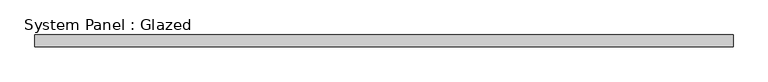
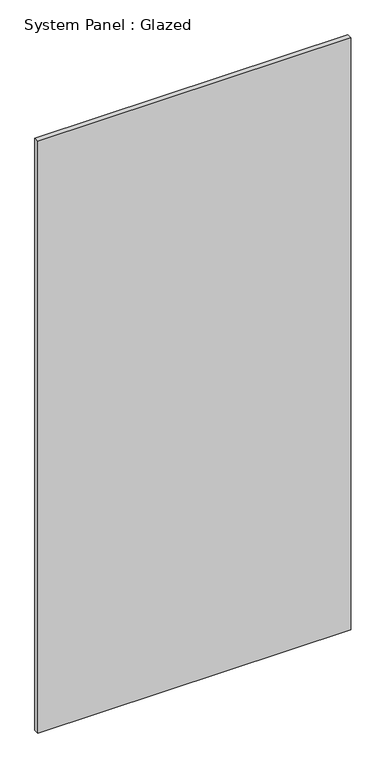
"""IFC4 building model written with IfcOpenShell, lengths in millimetres: plate geometry, System Panel : Glazed."""

from ifc_helpers import new_model, si_unit, origin, origin_with_axes, place, context, project, spatial, polyline, outline, extrude, source, transform, mapped, element, save


def system_panel_glazed_c0c5e10a(model_context):
    return source(origin(), model_context, "Body", "SweptSolid", [
        extrude(outline(polyline([(762.0000002, -44.45), (-762.0000002, -44.45), (-762.0000002, -19.05), (762.0000002, -19.05), (762.0000002, -44.45)])), origin_with_axes(), (0.0, 0.0, 1.0), 3048.0),
    ])


if __name__ == "__main__":
    model = new_model("IFC4")
    model_context = context("Model", 3, world=origin())
    ifc_project = project(units=[si_unit("LENGTHUNIT", "METRE", prefix="MILLI")], contexts=[model_context])
    site = spatial("IfcSite", under=ifc_project)
    building = spatial("IfcBuilding", under=site)
    placement = place(None, origin())
    system_panel_glazed_shape = system_panel_glazed_c0c5e10a(model_context)
    element("IfcPlate", 1, ObjectType="System Panel : Glazed", at=placement, inside=building, context=model_context, shape_type="MappedRepresentation", body=[
        mapped(system_panel_glazed_shape, transform((0.0, 0.0, 0.0), x_axis=(1.0, 0.0, 0.0), y_axis=(0.0, 1.0, 0.0), z_axis=(0.0, 0.0, 1.0))),
    ])
    save(model, "model.ifc")
